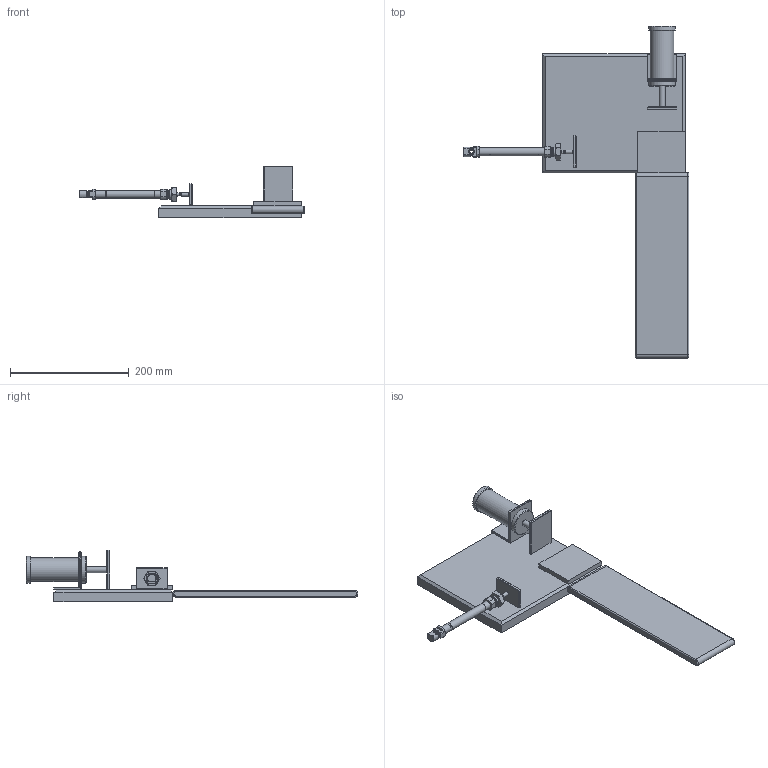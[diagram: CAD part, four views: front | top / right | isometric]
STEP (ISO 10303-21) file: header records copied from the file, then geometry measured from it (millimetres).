
FILE_DESCRIPTION(/* description */ (''),/* implementation_level */ '2;1');
FILE_NAME(/* name */ 'Workpiece Feeder.stp',/* time_stamp */ '2024-12-03T13:59:35+01:00',/* author */ ('ruhr'),/* organization */ (''),/* preprocessor_version */ 'ST-DEVELOPER v20',/* originating_system */ 'Autodesk Inventor 2024',/* authorisation */ '');
FILE_SCHEMA (('AUTOMOTIVE_DESIGN { 1 0 10303 214 3 1 1 }'));
Length unit declared in the file: millimetre
Products named in the file (16): Workpiece Feeder; Machine base; Workpiece; Pusher 1; Barrel; Back end cap; Front end cap; Rod; Mounting bracet; Pusher plate; Conveyor; 19193 DSNU-12-80-P-A---(0); 19193 DSNU-12-80-P---(A----0-ZR); DIN-439-B - M16x1.5(F); 19193 DSNU-12-80-P---(A---00--0-KS); Pusherplate2
Assembly tree (15 placements, depth 3):
  Workpiece Feeder
    Machine base
    Workpiece
    Pusher 1
      Barrel
      Back end cap
      Front end cap
      Rod
      Mounting bracet
      Pusher plate
    Conveyor
    19193 DSNU-12-80-P-A---(0)
      19193 DSNU-12-80-P---(A----0-ZR)
      DIN-439-B - M16x1.5(F)
      19193 DSNU-12-80-P---(A---00--0-KS)
      Pusherplate2
Bounding box: 379.93 x 559 x 86.72 mm (x, y, z)
Volume: 1534697.2 mm3; surface area: 258099.3 mm2
Topology: 13 solids, 13 shells, 212 faces, 464 edges, 285 vertices
Faces by surface type: plane 136, cylinder 42, cone 22, torus 12
Full cylindrical faces by diameter (mm): 4.134 x2, 4.8 x1, 6 x4, 8 x2, 10 x3, 12 x2, 13.3 x1, 13.7 x1, 14.376 x1, 16 x2, 40 x1, 45 x2
Entity records: 6527 total; most frequent: CARTESIAN_POINT 1189, DIRECTION 1047, ORIENTED_EDGE 926, EDGE_CURVE 463, AXIS2_PLACEMENT_3D 383, VERTEX_POINT 285, LINE 281, VECTOR 281
